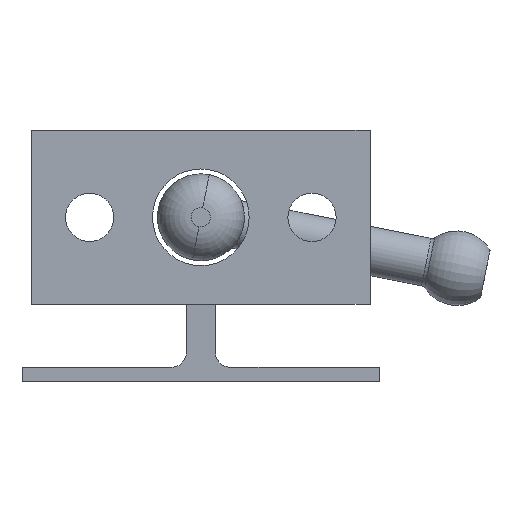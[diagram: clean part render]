
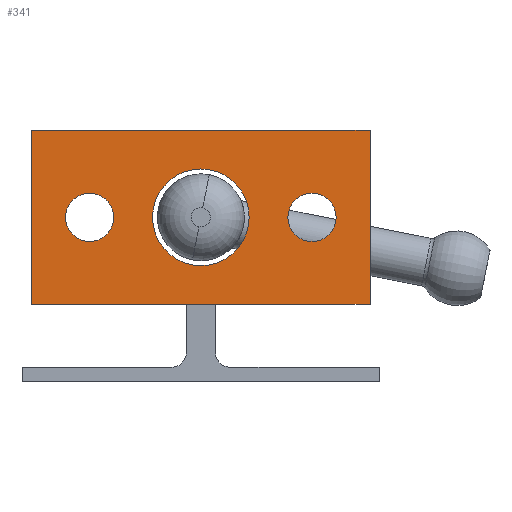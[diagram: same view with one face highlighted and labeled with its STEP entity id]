
A CAD part, front view. The second image highlights one B-rep face of the part: STEP entity #341.
In plain terms, the highlighted planar face has unit normal (0, -1, 0).
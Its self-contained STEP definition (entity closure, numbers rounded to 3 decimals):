
#78 = ORIENTED_EDGE ( 'NONE', *, *, #753, .F. ) ;
#87 = VERTEX_POINT ( 'NONE', #1686 ) ;
#112 = ORIENTED_EDGE ( 'NONE', *, *, #3675, .F. ) ;
#120 = EDGE_LOOP ( 'NONE', ( #1100, #923, #112, #78 ) ) ;
#131 = ORIENTED_EDGE ( 'NONE', *, *, #367, .T. ) ;
#166 = EDGE_CURVE ( 'NONE', #321, #338, #2461, .T. ) ;
#190 = ORIENTED_EDGE ( 'NONE', *, *, #166, .T. ) ;
#225 = EDGE_LOOP ( 'NONE', ( #190, #131 ) ) ;
#246 = ORIENTED_EDGE ( 'NONE', *, *, #2076, .T. ) ;
#259 = VERTEX_POINT ( 'NONE', #3155 ) ;
#272 = EDGE_CURVE ( 'NONE', #3318, #912, #3242, .T. ) ;
#283 = VERTEX_POINT ( 'NONE', #2096 ) ;
#288 = ORIENTED_EDGE ( 'NONE', *, *, #3265, .T. ) ;
#303 = VERTEX_POINT ( 'NONE', #2363 ) ;
#319 = EDGE_CURVE ( 'NONE', #303, #283, #1052, .T. ) ;
#321 = VERTEX_POINT ( 'NONE', #1077 ) ;
#323 = EDGE_LOOP ( 'NONE', ( #288, #2862 ) ) ;
#338 = VERTEX_POINT ( 'NONE', #1247 ) ;
#341 = ADVANCED_FACE ( 'NONE', ( #1249, #1250, #1251, #1252 ), #1253, .T. ) ;
#367 = EDGE_CURVE ( 'NONE', #338, #321, #1375, .T. ) ;
#590 = EDGE_CURVE ( 'NONE', #87, #670, #2472, .T. ) ;
#670 = VERTEX_POINT ( 'NONE', #2823 ) ;
#728 = VERTEX_POINT ( 'NONE', #3056 ) ;
#753 = EDGE_CURVE ( 'NONE', #283, #728, #3145, .T. ) ;
#912 = VERTEX_POINT ( 'NONE', #1439 ) ;
#923 = ORIENTED_EDGE ( 'NONE', *, *, #1273, .F. ) ;
#1052 = LINE ( 'NONE', #1053, #1054 ) ;
#1053 = CARTESIAN_POINT ( 'NONE',  ( 0., 0., 0. ) ) ;
#1054 = VECTOR ( 'NONE', #1055, 1000. ) ;
#1055 = DIRECTION ( 'NONE',  ( 0., 0., 1. ) ) ;
#1077 = CARTESIAN_POINT ( 'NONE',  ( 6., 0., -6.5 ) ) ;
#1100 = ORIENTED_EDGE ( 'NONE', *, *, #319, .F. ) ;
#1247 = CARTESIAN_POINT ( 'NONE',  ( 6., 0., -11.5 ) ) ;
#1249 = FACE_BOUND ( 'NONE', #323, .T. ) ;
#1250 = FACE_BOUND ( 'NONE', #2638, .T. ) ;
#1251 = FACE_BOUND ( 'NONE', #225, .T. ) ;
#1252 = FACE_OUTER_BOUND ( 'NONE', #120, .T. ) ;
#1253 = PLANE ( 'NONE',  #1254 ) ;
#1254 = AXIS2_PLACEMENT_3D ( 'NONE', #1257, #1258, #1259 ) ;
#1257 = CARTESIAN_POINT ( 'NONE',  ( 0., 0., -18. ) ) ;
#1258 = DIRECTION ( 'NONE',  ( 0., -1., 0. ) ) ;
#1259 = DIRECTION ( 'NONE',  ( 0., 0., -1. ) ) ;
#1273 = EDGE_CURVE ( 'NONE', #259, #303, #1883, .T. ) ;
#1375 = CIRCLE ( 'NONE', #1376, 2.5 ) ;
#1376 = AXIS2_PLACEMENT_3D ( 'NONE', #1377, #1378, #1379 ) ;
#1377 = CARTESIAN_POINT ( 'NONE',  ( 6., 0., -9. ) ) ;
#1378 = DIRECTION ( 'NONE',  ( 0., 1., 0. ) ) ;
#1379 = DIRECTION ( 'NONE',  ( 0., 0., 1. ) ) ;
#1439 = CARTESIAN_POINT ( 'NONE',  ( 29., 0., -11.5 ) ) ;
#1686 = CARTESIAN_POINT ( 'NONE',  ( 17.5, 0., -14. ) ) ;
#1883 = LINE ( 'NONE', #1884, #1885 ) ;
#1884 = CARTESIAN_POINT ( 'NONE',  ( 0., 0., -18. ) ) ;
#1885 = VECTOR ( 'NONE', #1886, 1000. ) ;
#1886 = DIRECTION ( 'NONE',  ( -1., 0., 0. ) ) ;
#2007 = ORIENTED_EDGE ( 'NONE', *, *, #272, .T. ) ;
#2011 = LINE ( 'NONE', #2012, #2013 ) ;
#2012 = CARTESIAN_POINT ( 'NONE',  ( 35., 0., 0. ) ) ;
#2013 = VECTOR ( 'NONE', #2014, 1000. ) ;
#2014 = DIRECTION ( 'NONE',  ( 0., 0., -1. ) ) ;
#2076 = EDGE_CURVE ( 'NONE', #912, #3318, #2515, .T. ) ;
#2096 = CARTESIAN_POINT ( 'NONE',  ( 0., 0., 0. ) ) ;
#2363 = CARTESIAN_POINT ( 'NONE',  ( 0., 0., -18. ) ) ;
#2461 = CIRCLE ( 'NONE', #2462, 2.5 ) ;
#2462 = AXIS2_PLACEMENT_3D ( 'NONE', #2463, #2464, #2465 ) ;
#2463 = CARTESIAN_POINT ( 'NONE',  ( 6., 0., -9. ) ) ;
#2464 = DIRECTION ( 'NONE',  ( 0., 1., 0. ) ) ;
#2465 = DIRECTION ( 'NONE',  ( 0., 0., 1. ) ) ;
#2472 = CIRCLE ( 'NONE', #2473, 5. ) ;
#2473 = AXIS2_PLACEMENT_3D ( 'NONE', #2474, #2475, #2476 ) ;
#2474 = CARTESIAN_POINT ( 'NONE',  ( 17.5, 0., -9. ) ) ;
#2475 = DIRECTION ( 'NONE',  ( 0., 1., 0. ) ) ;
#2476 = DIRECTION ( 'NONE',  ( 0., 0., 1. ) ) ;
#2515 = CIRCLE ( 'NONE', #2516, 2.5 ) ;
#2516 = AXIS2_PLACEMENT_3D ( 'NONE', #2517, #2518, #2520 ) ;
#2517 = CARTESIAN_POINT ( 'NONE',  ( 29., 0., -9. ) ) ;
#2518 = DIRECTION ( 'NONE',  ( 0., 1., 0. ) ) ;
#2520 = DIRECTION ( 'NONE',  ( 0., 0., 1. ) ) ;
#2638 = EDGE_LOOP ( 'NONE', ( #2007, #246 ) ) ;
#2823 = CARTESIAN_POINT ( 'NONE',  ( 17.5, 0., -4. ) ) ;
#2862 = ORIENTED_EDGE ( 'NONE', *, *, #590, .T. ) ;
#3056 = CARTESIAN_POINT ( 'NONE',  ( 35., 0., 0. ) ) ;
#3145 = LINE ( 'NONE', #3146, #3147 ) ;
#3146 = CARTESIAN_POINT ( 'NONE',  ( 0., 0., 0. ) ) ;
#3147 = VECTOR ( 'NONE', #3148, 1000. ) ;
#3148 = DIRECTION ( 'NONE',  ( 1., 0., 0. ) ) ;
#3155 = CARTESIAN_POINT ( 'NONE',  ( 35., 0., -18. ) ) ;
#3156 = CIRCLE ( 'NONE', #3157, 5. ) ;
#3157 = AXIS2_PLACEMENT_3D ( 'NONE', #3158, #3159, #3160 ) ;
#3158 = CARTESIAN_POINT ( 'NONE',  ( 17.5, 0., -9. ) ) ;
#3159 = DIRECTION ( 'NONE',  ( 0., 1., 0. ) ) ;
#3160 = DIRECTION ( 'NONE',  ( 0., 0., 1. ) ) ;
#3187 = CARTESIAN_POINT ( 'NONE',  ( 29., 0., -6.5 ) ) ;
#3242 = CIRCLE ( 'NONE', #3243, 2.5 ) ;
#3243 = AXIS2_PLACEMENT_3D ( 'NONE', #3244, #3245, #3246 ) ;
#3244 = CARTESIAN_POINT ( 'NONE',  ( 29., 0., -9. ) ) ;
#3245 = DIRECTION ( 'NONE',  ( 0., 1., 0. ) ) ;
#3246 = DIRECTION ( 'NONE',  ( 0., 0., 1. ) ) ;
#3265 = EDGE_CURVE ( 'NONE', #670, #87, #3156, .T. ) ;
#3318 = VERTEX_POINT ( 'NONE', #3187 ) ;
#3675 = EDGE_CURVE ( 'NONE', #728, #259, #2011, .T. ) ;
